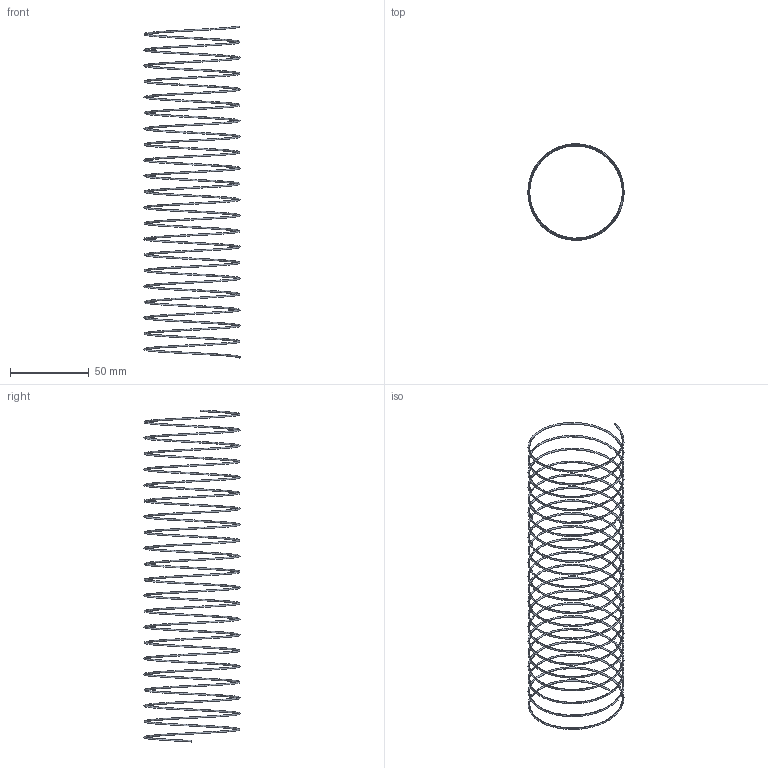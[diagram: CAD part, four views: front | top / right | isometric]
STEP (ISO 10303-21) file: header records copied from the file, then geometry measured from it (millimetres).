
FILE_DESCRIPTION( ( 'STEP AP203' ), '1' );
FILE_NAME( 'D:/Cuma/25 06 2009/D60.01/D60.01_60/D60.01_60210.step', '2003-02-03T15:20:02', ( ' ' ), ( ' ' ), 'XStep 1.0', ' ', ' ' );
FILE_SCHEMA( ( 'CONFIG_CONTROL_DESIGN' ) );
Length unit declared in the file: metre
Products named in the file (1): 1
Bounding box: 61 x 61 x 210.71 mm (x, y, z)
Volume: 3074.8 mm3; surface area: 12369.3 mm2
Topology: 1 solids, 1 shells, 3 faces, 3 edges, 2 vertices
Faces by surface type: plane 2, bspline 1
Entity records: 3807 total; most frequent: CARTESIAN_POINT 3725, DIRECTION 6, CC_DESIGN_PERSON_AND_ORGANIZATION_ASSIGNMENT 5, PERSON_AND_ORGANIZATION_ROLE 4, FACE_OUTER_BOUND 4, EDGE_LOOP 4, ORIENTED_EDGE 4, AXIS2_PLACEMENT_3D 3
